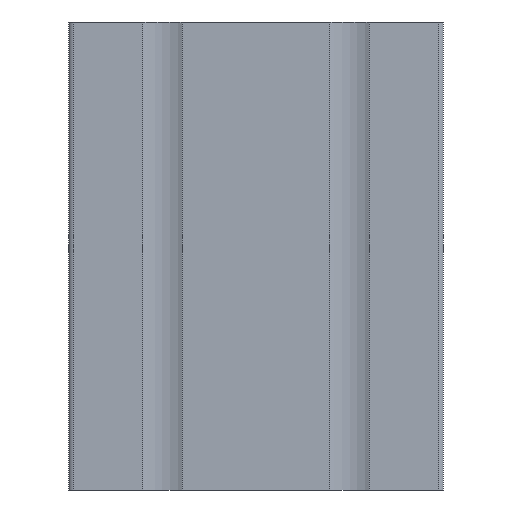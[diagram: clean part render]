
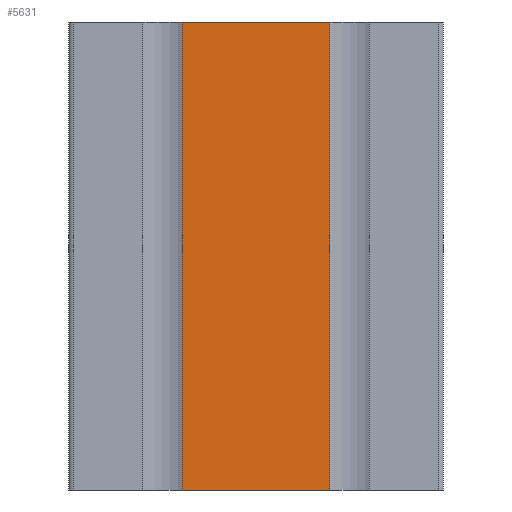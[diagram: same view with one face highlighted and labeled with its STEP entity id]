
A CAD part, left-side view. The second image highlights one B-rep face of the part: STEP entity #5631.
In plain terms, the highlighted planar face has unit normal (-1, 0, 0).
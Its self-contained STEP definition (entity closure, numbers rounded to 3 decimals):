
#166 = CARTESIAN_POINT ( 'NONE',  ( -40., -15.8, 50. ) ) ;
#839 = CARTESIAN_POINT ( 'NONE',  ( -40., 0., 50. ) ) ;
#1132 = EDGE_CURVE ( 'NONE', #6427, #2273, #6325, .T. ) ;
#1173 = LINE ( 'NONE', #3248, #6635 ) ;
#1380 = DIRECTION ( 'NONE',  ( 0., -1., 0. ) ) ;
#1434 = FACE_OUTER_BOUND ( 'NONE', #6576, .T. ) ;
#1466 = ORIENTED_EDGE ( 'NONE', *, *, #1132, .T. ) ;
#1618 = CARTESIAN_POINT ( 'NONE',  ( -40., 15.8, 50. ) ) ;
#1637 = LINE ( 'NONE', #3796, #2854 ) ;
#1675 = DIRECTION ( 'NONE',  ( 0., -1., 0. ) ) ;
#1816 = PLANE ( 'NONE',  #6132 ) ;
#1877 = VERTEX_POINT ( 'NONE', #166 ) ;
#2201 = DIRECTION ( 'NONE',  ( 0., 0., -1. ) ) ;
#2273 = VERTEX_POINT ( 'NONE', #5476 ) ;
#2854 = VECTOR ( 'NONE', #1675, 1000. ) ;
#2929 = CARTESIAN_POINT ( 'NONE',  ( -40., 15.8, 50. ) ) ;
#3212 = VECTOR ( 'NONE', #1380, 1000. ) ;
#3248 = CARTESIAN_POINT ( 'NONE',  ( -40., -15.8, 50. ) ) ;
#3492 = EDGE_CURVE ( 'NONE', #6427, #1877, #4507, .T. ) ;
#3647 = DIRECTION ( 'NONE',  ( 0., 0., -1. ) ) ;
#3796 = CARTESIAN_POINT ( 'NONE',  ( -40., 0., -50. ) ) ;
#3925 = EDGE_CURVE ( 'NONE', #1877, #6209, #1173, .T. ) ;
#4180 = CARTESIAN_POINT ( 'NONE',  ( -40., -15.8, -50. ) ) ;
#4507 = LINE ( 'NONE', #839, #3212 ) ;
#4532 = DIRECTION ( 'NONE',  ( 1., 0., 0. ) ) ;
#4822 = EDGE_CURVE ( 'NONE', #2273, #6209, #1637, .T. ) ;
#5476 = CARTESIAN_POINT ( 'NONE',  ( -40., 15.8, -50. ) ) ;
#5515 = ORIENTED_EDGE ( 'NONE', *, *, #4822, .T. ) ;
#5631 = ADVANCED_FACE ( 'NONE', ( #1434 ), #1816, .F. ) ;
#6074 = DIRECTION ( 'NONE',  ( 0., 0., -1. ) ) ;
#6132 = AXIS2_PLACEMENT_3D ( 'NONE', #6588, #4532, #6074 ) ;
#6209 = VERTEX_POINT ( 'NONE', #4180 ) ;
#6251 = ORIENTED_EDGE ( 'NONE', *, *, #3925, .F. ) ;
#6325 = LINE ( 'NONE', #1618, #6491 ) ;
#6427 = VERTEX_POINT ( 'NONE', #2929 ) ;
#6491 = VECTOR ( 'NONE', #3647, 1000. ) ;
#6576 = EDGE_LOOP ( 'NONE', ( #5515, #6251, #6733, #1466 ) ) ;
#6588 = CARTESIAN_POINT ( 'NONE',  ( -40., 0., 50. ) ) ;
#6635 = VECTOR ( 'NONE', #2201, 1000. ) ;
#6733 = ORIENTED_EDGE ( 'NONE', *, *, #3492, .F. ) ;
